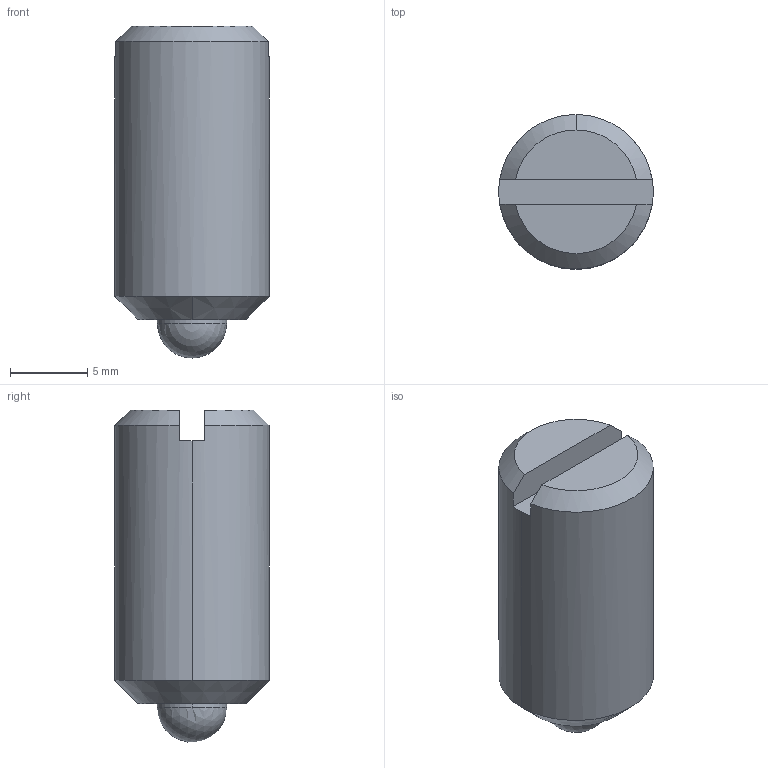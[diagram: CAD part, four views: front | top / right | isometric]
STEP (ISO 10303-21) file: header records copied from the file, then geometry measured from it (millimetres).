
FILE_DESCRIPTION (( 'STEP AP203' ), '1' );
FILE_NAME ('spl10.STEP', '2021-10-25T04:25:08', ( '' ), ( '' ), 'SwSTEP 2.0', 'SolidWorks 2020', '' );
FILE_SCHEMA (( 'CONFIG_CONTROL_DESIGN' ));
Length unit declared in the file: millimetre
Products named in the file (1): spl10
Bounding box: 10 x 10 x 21.48 mm (x, y, z)
Volume: 1443.4 mm3; surface area: 756.1 mm2
Topology: 1 solids, 1 shells, 16 faces, 43 edges, 28 vertices
Faces by surface type: plane 6, cone 5, cylinder 4, sphere 1
Entity records: 564 total; most frequent: CARTESIAN_POINT 94, DIRECTION 89, ORIENTED_EDGE 78, EDGE_CURVE 39, AXIS2_PLACEMENT_3D 37, VERTEX_POINT 26, CIRCLE 20, EDGE_LOOP 17
